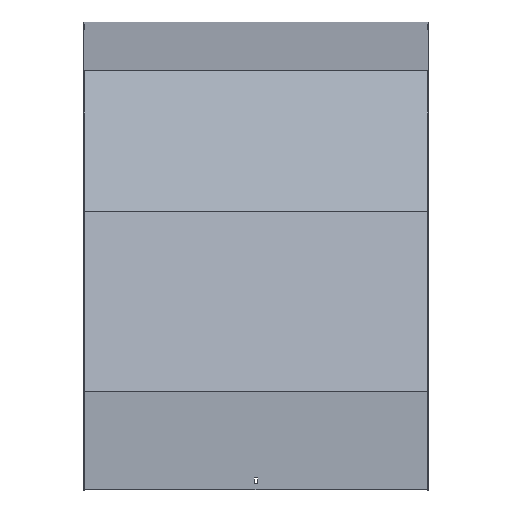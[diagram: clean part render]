
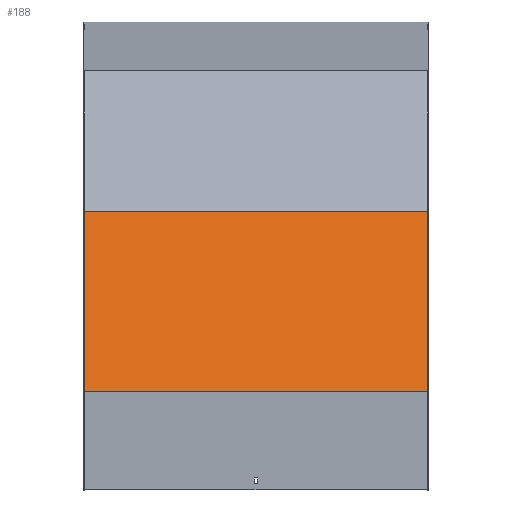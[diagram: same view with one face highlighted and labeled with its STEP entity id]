
A CAD part, top view. The second image highlights one B-rep face of the part: STEP entity #188.
In plain terms, the highlighted planar face has unit normal (0, 0.259, 0.966).
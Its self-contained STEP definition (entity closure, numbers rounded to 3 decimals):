
#70 = VECTOR ( 'NONE', #1048, 1000. ) ;
#99 = DIRECTION ( 'NONE',  ( 0., 0.966, -0.259 ) ) ;
#127 = EDGE_CURVE ( 'NONE', #1104, #862, #464, .T. ) ;
#136 = EDGE_CURVE ( 'NONE', #852, #862, #1107, .T. ) ;
#147 = DIRECTION ( 'NONE',  ( -1., 0., 0. ) ) ;
#162 = EDGE_CURVE ( 'NONE', #211, #852, #1095, .T. ) ;
#188 = ADVANCED_FACE ( 'NONE', ( #789 ), #712, .F. ) ;
#196 = EDGE_LOOP ( 'NONE', ( #798, #200, #582, #1109 ) ) ;
#200 = ORIENTED_EDGE ( 'NONE', *, *, #136, .F. ) ;
#211 = VERTEX_POINT ( 'NONE', #809 ) ;
#245 = VECTOR ( 'NONE', #796, 1000. ) ;
#279 = CARTESIAN_POINT ( 'NONE',  ( 301.5, -627.77, 820.403 ) ) ;
#306 = CARTESIAN_POINT ( 'NONE',  ( -301.5, -311.92, 735.771 ) ) ;
#317 = AXIS2_PLACEMENT_3D ( 'NONE', #445, #1058, #99 ) ;
#341 = DIRECTION ( 'NONE',  ( 0., -0.966, 0.259 ) ) ;
#433 = CARTESIAN_POINT ( 'NONE',  ( 301.5, -317.096, 737.158 ) ) ;
#445 = CARTESIAN_POINT ( 'NONE',  ( 301.5, -317.096, 737.158 ) ) ;
#464 = LINE ( 'NONE', #701, #70 ) ;
#541 = VECTOR ( 'NONE', #341, 1000. ) ;
#582 = ORIENTED_EDGE ( 'NONE', *, *, #162, .F. ) ;
#676 = CARTESIAN_POINT ( 'NONE',  ( 301.5, -627.77, 820.403 ) ) ;
#686 = EDGE_CURVE ( 'NONE', #211, #1104, #1035, .T. ) ;
#701 = CARTESIAN_POINT ( 'NONE',  ( -301.5, -317.096, 737.158 ) ) ;
#712 = PLANE ( 'NONE',  #317 ) ;
#789 = FACE_OUTER_BOUND ( 'NONE', #196, .T. ) ;
#796 = DIRECTION ( 'NONE',  ( -1., 0., 0. ) ) ;
#798 = ORIENTED_EDGE ( 'NONE', *, *, #127, .T. ) ;
#808 = CARTESIAN_POINT ( 'NONE',  ( -301.5, -627.77, 820.403 ) ) ;
#809 = CARTESIAN_POINT ( 'NONE',  ( 301.5, -311.92, 735.771 ) ) ;
#852 = VERTEX_POINT ( 'NONE', #279 ) ;
#861 = CARTESIAN_POINT ( 'NONE',  ( 301.5, -311.92, 735.771 ) ) ;
#862 = VERTEX_POINT ( 'NONE', #808 ) ;
#1035 = LINE ( 'NONE', #861, #245 ) ;
#1048 = DIRECTION ( 'NONE',  ( 0., -0.966, 0.259 ) ) ;
#1058 = DIRECTION ( 'NONE',  ( 0., -0.259, -0.966 ) ) ;
#1095 = LINE ( 'NONE', #433, #541 ) ;
#1097 = VECTOR ( 'NONE', #147, 1000. ) ;
#1104 = VERTEX_POINT ( 'NONE', #306 ) ;
#1107 = LINE ( 'NONE', #676, #1097 ) ;
#1109 = ORIENTED_EDGE ( 'NONE', *, *, #686, .T. ) ;
